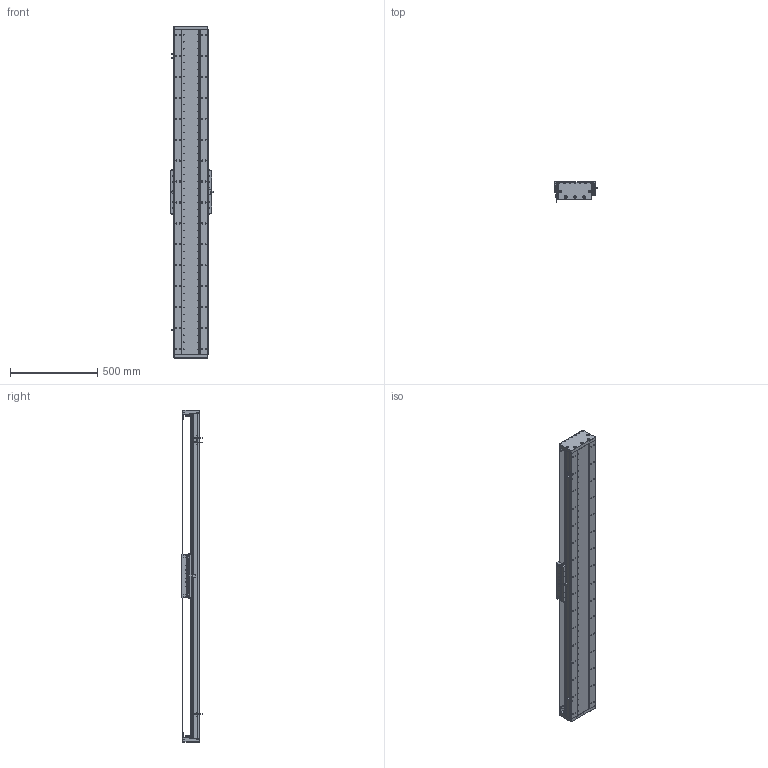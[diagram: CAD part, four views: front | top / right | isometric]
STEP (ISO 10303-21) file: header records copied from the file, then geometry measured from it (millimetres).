
FILE_DESCRIPTION (( 'STEP AP203' ), '1' );
FILE_NAME ('DA-C195-C3-T1560-C010-0.2 眻盄萇儂.STEP', '2025-08-15T01:37:34', ( '' ), ( '' ), 'SwSTEP 2.0', 'SolidWorks 2019', '' );
FILE_SCHEMA (( 'CONFIG_CONTROL_DESIGN' ));
Length unit declared in the file: millimetre
Products named in the file (15): DA195詩湍嶺輸; DA-C195-C3-T1560-C010-0.2 眻盄萇儂; CU195-C3賑輸-俋楷; PM-T45ㄗ侂狟ㄘ; IU-CU195-L 菁釱絳寢; LMT黍杅芛; IU-CU195-L-00 菁釱(L1860); DA-C195-GD-DB-H-00 傷啣; DA195詩湍裔啣; DA195詩湍菜輸; MS200 棠掑喜S315-T240; 葩璃 DA95-GT-T-00; DA195詩湍郪璃; DA165-GYP-00 光电感应片(默认); DA95-HXJ-00 遣喳砎蝶
Assembly tree (29 placements, depth 3):
  DA-C195-C3-T1560-C010-0.2 眻盄萇儂
    DA195詩湍郪璃
      DA195詩湍菜輸  x2
      DA195詩湍裔啣
      DA195詩湍嶺輸  x2
      DA95-HXJ-00 遣喳砎蝶  x8
      DA-C195-GD-DB-H-00 傷啣  x2
    IU-CU195-L 菁釱絳寢
      IU-CU195-L-00 菁釱(L1860)
      葩璃 DA95-GT-T-00  x4
    LMT黍杅芛
    MS200 棠掑喜S315-T240
    PM-T45ㄗ侂狟ㄘ  x3
    DA165-GYP-00 光电感应片(默认)
    CU195-C3賑輸-俋楷
Bounding box: 248 x 115.45 x 1900 mm (x, y, z)
Volume: 11802887.8 mm3; surface area: 3410728.2 mm2
Topology: 86 solids, 118 shells, 4036 faces, 11055 edges, 6929 vertices
Faces by surface type: cylinder 2082, plane 1352, cone 514, torus 52, sphere 36
Entity records: 124177 total; most frequent: CARTESIAN_POINT 31716, ORIENTED_EDGE 19026, DIRECTION 18806, EDGE_CURVE 9513, AXIS2_PLACEMENT_3D 7045, VERTEX_POINT 6131, VECTOR 4716, LINE 4716
